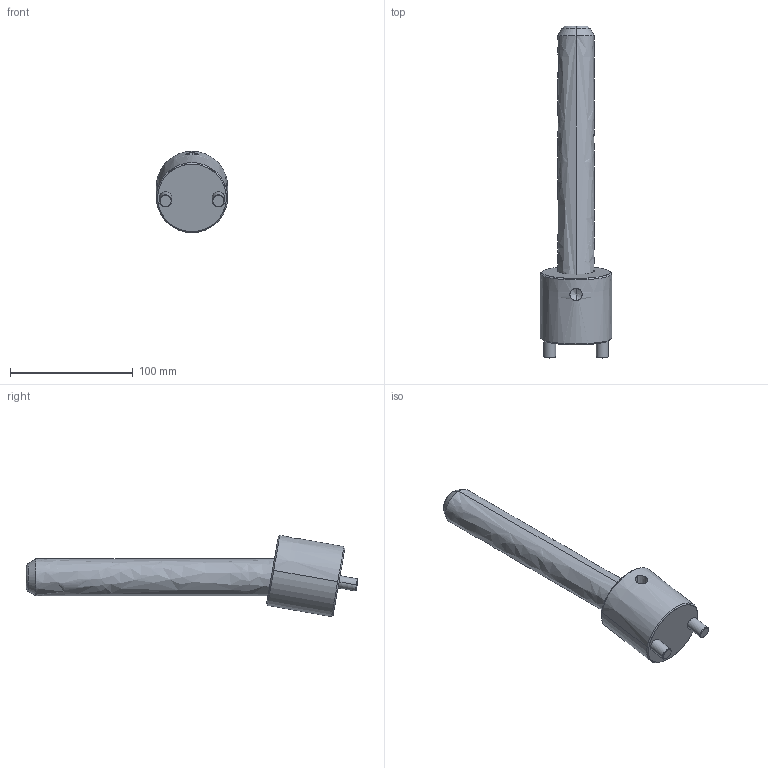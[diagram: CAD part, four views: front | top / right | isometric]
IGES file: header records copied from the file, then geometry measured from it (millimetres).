
Start section: START RECORD GO HERE.
Global section: file name: CI1030200.igs; native system: DASSAULT SYSTEMES CATIA V5 R20 - www.3ds.com; preprocessor: CATIA Version 5 Release 20 ; author: r.borello; organization: CFTORINO; date: 20190621.160035; units: millimetre
Bounding box: 58 x 270.76 x 66.32 mm (x, y, z)
Surface area: 44977.6 mm2 (no closed solid volume)
Topology: 0 solids, 0 shells, 39 faces, 162 edges, 160 vertices
Faces by surface type: revolution 32, plane 7
